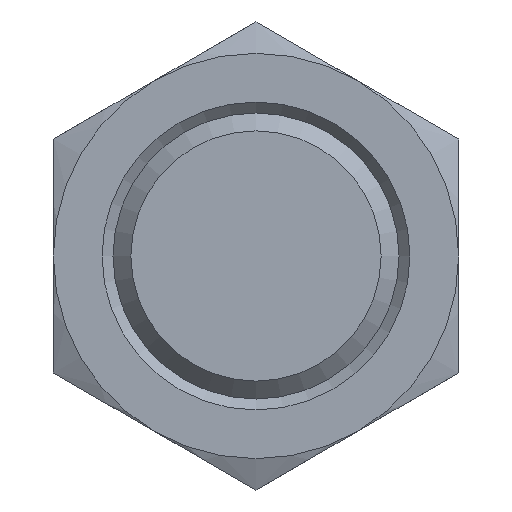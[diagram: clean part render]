
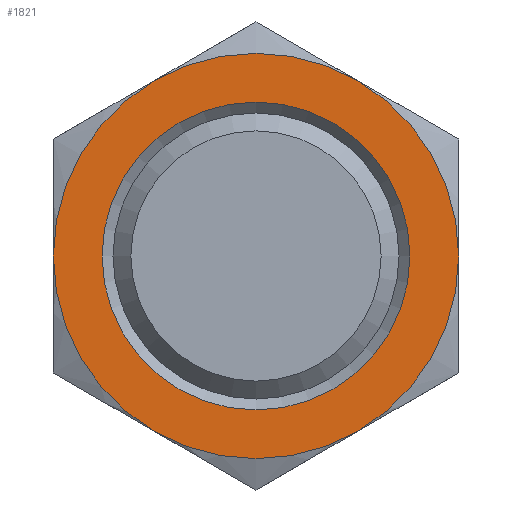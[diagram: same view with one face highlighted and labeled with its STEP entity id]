
A CAD part, front view. The second image highlights one B-rep face of the part: STEP entity #1821.
In plain terms, the highlighted planar face has unit normal (0, -1, 0).
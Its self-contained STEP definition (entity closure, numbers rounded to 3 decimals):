
#7 = VERTEX_POINT ( 'NONE', #701 ) ;
#26 = ORIENTED_EDGE ( 'NONE', *, *, #1404, .T. ) ;
#42 = FACE_OUTER_BOUND ( 'NONE', #1890, .T. ) ;
#57 = CARTESIAN_POINT ( 'NONE',  ( -8.5, -3.25, 0. ) ) ;
#79 = AXIS2_PLACEMENT_3D ( 'NONE', #919, #503, #2224 ) ;
#93 = EDGE_CURVE ( 'NONE', #287, #1690, #1119, .T. ) ;
#178 = EDGE_LOOP ( 'NONE', ( #2488 ) ) ;
#187 = EDGE_CURVE ( 'NONE', #7, #7, #341, .T. ) ;
#287 = VERTEX_POINT ( 'NONE', #1737 ) ;
#303 = CARTESIAN_POINT ( 'NONE',  ( 0., -3.25, 0. ) ) ;
#305 = DIRECTION ( 'NONE',  ( 0., -1., 0. ) ) ;
#341 = CIRCLE ( 'NONE', #724, 6.458 ) ;
#438 = CARTESIAN_POINT ( 'NONE',  ( 0., -3.25, 0. ) ) ;
#449 = ORIENTED_EDGE ( 'NONE', *, *, #1619, .T. ) ;
#503 = DIRECTION ( 'NONE',  ( 0., -1., 0. ) ) ;
#535 = CARTESIAN_POINT ( 'NONE',  ( 4.25, -3.25, -7.361 ) ) ;
#536 = AXIS2_PLACEMENT_3D ( 'NONE', #303, #1671, #1662 ) ;
#570 = DIRECTION ( 'NONE',  ( 0.866, 0., 0.5 ) ) ;
#616 = AXIS2_PLACEMENT_3D ( 'NONE', #2137, #1828, #2357 ) ;
#701 = CARTESIAN_POINT ( 'NONE',  ( -5.593, -3.25, -3.229 ) ) ;
#703 = DIRECTION ( 'NONE',  ( 0.866, 0., 0.5 ) ) ;
#724 = AXIS2_PLACEMENT_3D ( 'NONE', #438, #2329, #1218 ) ;
#729 = ORIENTED_EDGE ( 'NONE', *, *, #2452, .T. ) ;
#853 = CIRCLE ( 'NONE', #2012, 8.5 ) ;
#889 = EDGE_CURVE ( 'NONE', #1720, #287, #1270, .T. ) ;
#919 = CARTESIAN_POINT ( 'NONE',  ( 0., -3.25, 0. ) ) ;
#943 = VERTEX_POINT ( 'NONE', #535 ) ;
#1030 = CARTESIAN_POINT ( 'NONE',  ( -4.25, -3.25, -7.361 ) ) ;
#1039 = VERTEX_POINT ( 'NONE', #1030 ) ;
#1116 = DIRECTION ( 'NONE',  ( 0., -1., 0. ) ) ;
#1119 = CIRCLE ( 'NONE', #536, 8.5 ) ;
#1133 = CARTESIAN_POINT ( 'NONE',  ( 8.5, -3.25, 0. ) ) ;
#1173 = DIRECTION ( 'NONE',  ( 0., 1., 0. ) ) ;
#1218 = DIRECTION ( 'NONE',  ( -0.866, 0., -0.5 ) ) ;
#1257 = DIRECTION ( 'NONE',  ( 0.866, 0., 0.5 ) ) ;
#1270 = CIRCLE ( 'NONE', #1859, 8.5 ) ;
#1289 = DIRECTION ( 'NONE',  ( 0.866, 0., 0.5 ) ) ;
#1382 = CARTESIAN_POINT ( 'NONE',  ( 0., -3.25, 0. ) ) ;
#1404 = EDGE_CURVE ( 'NONE', #1690, #2102, #1623, .T. ) ;
#1483 = ORIENTED_EDGE ( 'NONE', *, *, #2066, .T. ) ;
#1613 = DIRECTION ( 'NONE',  ( 0., -1., 0. ) ) ;
#1619 = EDGE_CURVE ( 'NONE', #1039, #943, #1680, .T. ) ;
#1623 = CIRCLE ( 'NONE', #2127, 8.5 ) ;
#1662 = DIRECTION ( 'NONE',  ( 0.866, 0., 0.5 ) ) ;
#1671 = DIRECTION ( 'NONE',  ( 0., -1., 0. ) ) ;
#1680 = CIRCLE ( 'NONE', #616, 8.5 ) ;
#1686 = CARTESIAN_POINT ( 'NONE',  ( 0., -3.25, 0. ) ) ;
#1690 = VERTEX_POINT ( 'NONE', #1964 ) ;
#1720 = VERTEX_POINT ( 'NONE', #1133 ) ;
#1737 = CARTESIAN_POINT ( 'NONE',  ( 4.25, -3.25, 7.361 ) ) ;
#1821 = ADVANCED_FACE ( 'NONE', ( #42, #2017 ), #2288, .F. ) ;
#1828 = DIRECTION ( 'NONE',  ( 0., -1., 0. ) ) ;
#1859 = AXIS2_PLACEMENT_3D ( 'NONE', #1865, #1116, #703 ) ;
#1865 = CARTESIAN_POINT ( 'NONE',  ( 0., -3.25, 0. ) ) ;
#1890 = EDGE_LOOP ( 'NONE', ( #1917, #2098, #26, #1483, #449, #729 ) ) ;
#1917 = ORIENTED_EDGE ( 'NONE', *, *, #889, .T. ) ;
#1964 = CARTESIAN_POINT ( 'NONE',  ( -4.25, -3.25, 7.361 ) ) ;
#2012 = AXIS2_PLACEMENT_3D ( 'NONE', #2367, #1613, #1257 ) ;
#2017 = FACE_BOUND ( 'NONE', #178, .T. ) ;
#2066 = EDGE_CURVE ( 'NONE', #2102, #1039, #853, .T. ) ;
#2098 = ORIENTED_EDGE ( 'NONE', *, *, #93, .T. ) ;
#2102 = VERTEX_POINT ( 'NONE', #57 ) ;
#2127 = AXIS2_PLACEMENT_3D ( 'NONE', #1686, #305, #1289 ) ;
#2137 = CARTESIAN_POINT ( 'NONE',  ( 0., -3.25, 0. ) ) ;
#2224 = DIRECTION ( 'NONE',  ( 0.866, 0., 0.5 ) ) ;
#2288 = PLANE ( 'NONE',  #2412 ) ;
#2329 = DIRECTION ( 'NONE',  ( 0., -1., 0. ) ) ;
#2357 = DIRECTION ( 'NONE',  ( 0.866, 0., 0.5 ) ) ;
#2367 = CARTESIAN_POINT ( 'NONE',  ( 0., -3.25, 0. ) ) ;
#2412 = AXIS2_PLACEMENT_3D ( 'NONE', #1382, #1173, #570 ) ;
#2452 = EDGE_CURVE ( 'NONE', #943, #1720, #2468, .T. ) ;
#2468 = CIRCLE ( 'NONE', #79, 8.5 ) ;
#2488 = ORIENTED_EDGE ( 'NONE', *, *, #187, .F. ) ;
